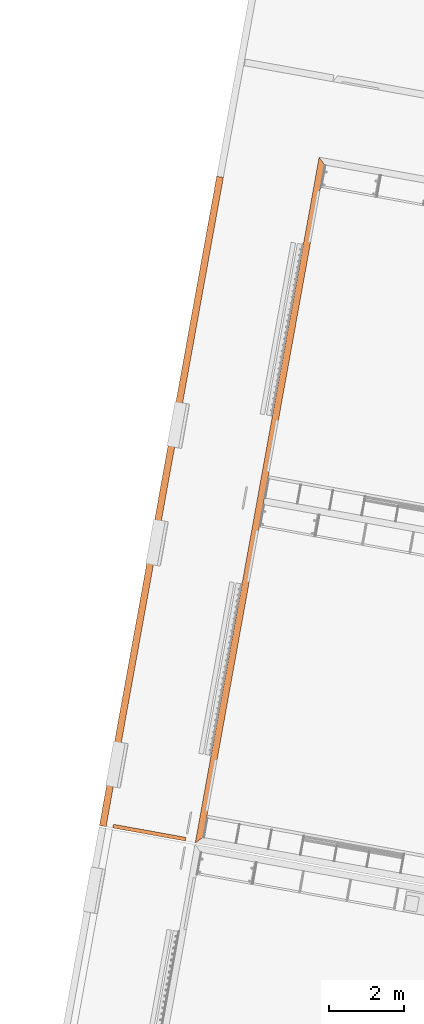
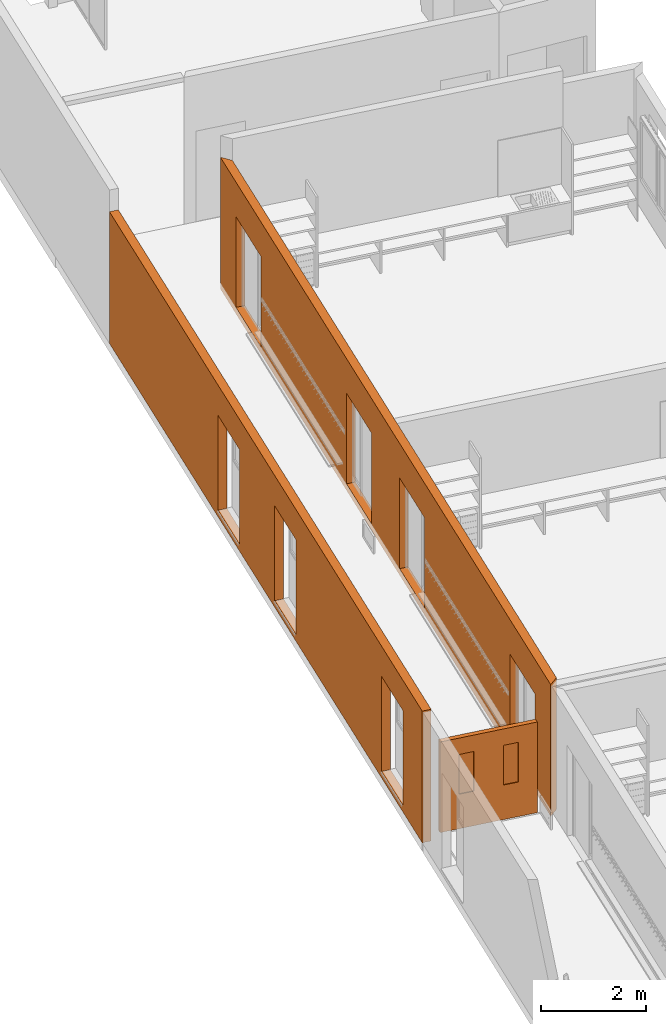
# One storey, part 44 of 52: 3 proxies.
"""IFC2X3 building model written with IfcOpenShell, lengths in metres."""

from ifc_helpers import new_model, entity, si_unit, converted_unit, derived_unit, money_unit, direction, frame, origin_with_axes, place, context, subcontext, project, spatial, polyline, outline, extrude, boolean, open_shell, faceted_brep, surface_model, material, type_object, element, save


model = new_model("IFC2X3")

# Units and contexts
model_context = context("Model", 3, precision=1e-05, world=origin_with_axes(), true_north=direction((0.0, 1.0)))
body_context = subcontext(model_context, "Body", "Model", "MODEL_VIEW")
ifc_project = project(units=[si_unit("LENGTHUNIT", "METRE"), si_unit("AREAUNIT", "SQUARE_METRE"), si_unit("VOLUMEUNIT", "CUBIC_METRE"), converted_unit("PLANEANGLEUNIT", "DEGREE", entity("IfcPlaneAngleMeasure", 0.0174532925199), si_unit("PLANEANGLEUNIT", "RADIAN"), dimensions=[0, 0, 0, 0, 0, 0, 0]), money_unit("CHF"), converted_unit("TIMEUNIT", "Year", entity("IfcTimeMeasure", 31556926.0), si_unit("TIMEUNIT", "SECOND"), dimensions=[0, 0, 1, 0, 0, 0, 0]), si_unit("MASSUNIT", "GRAM", prefix="KILO"), si_unit("THERMODYNAMICTEMPERATUREUNIT", "DEGREE_CELSIUS"), si_unit("LUMINOUSINTENSITYUNIT", "LUMEN"), si_unit("ENERGYUNIT", "JOULE", prefix="MEGA"), derived_unit("THERMALCONDUCTANCEUNIT", [(si_unit("POWERUNIT", "WATT"), 1), (si_unit("LENGTHUNIT", "METRE"), -1), (si_unit("THERMODYNAMICTEMPERATUREUNIT", "KELVIN"), -1)]), derived_unit("SPECIFICHEATCAPACITYUNIT", [(si_unit("ENERGYUNIT", "JOULE"), 1), (si_unit("MASSUNIT", "GRAM", prefix="KILO"), -1), (si_unit("THERMODYNAMICTEMPERATUREUNIT", "KELVIN"), -1)]), derived_unit("MASSDENSITYUNIT", [(si_unit("MASSUNIT", "GRAM", prefix="KILO"), 1), (si_unit("VOLUMEUNIT", "CUBIC_METRE"), -1)])], contexts=[model_context])

# Site, building, storey
site_placement = place(None, frame((0.0, 0.0, 0.0), z_axis=(0.0, 0.0, 1.0), x_axis=(-0.177771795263, -0.984071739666, 0.0)))
site = spatial("IfcSite", under=ifc_project, at=site_placement, Name="Site", CompositionType="ELEMENT")
building_placement = place(site_placement, origin_with_axes())
building = spatial("IfcBuilding", under=site, at=building_placement, Name="Bâtiment", CompositionType="ELEMENT")
storey_placement = place(building_placement, frame((0.0, 0.0, 3.2), z_axis=(0.0, 0.0, 1.0), x_axis=(1.0, 0.0, 0.0)))
storey = spatial("IfcBuildingStorey", under=building, at=storey_placement, Name="R+1", CompositionType="ELEMENT", Elevation=3.2)

# Proxies
ifc_material_1 = material(Name="_BA banché RAL9007")
building_element_proxy_type_1 = type_object("IfcBuildingElementProxyType", Name="_BA banché RAL9007 180", PredefinedType="NOTDEFINED")
proxy_1_placement = place(storey_placement, frame((128.464841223, -156.627151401, -0.15), z_axis=(0.0, 0.0, 1.0), x_axis=(-1.0, 0.0, 0.0)))
element("IfcBuildingElementProxy", 1, at=proxy_1_placement, inside=storey, type_object=building_element_proxy_type_1, material=ifc_material_1, Name="M refend", context=body_context, shape_type="CSG", body=[
    boolean("DIFFERENCE", boolean("DIFFERENCE", boolean("DIFFERENCE", boolean("DIFFERENCE", extrude(outline(polyline([(0.179999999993, -0.18), (18.36, -0.18), (18.54, 0.0), (0.0, 0.0), (0.179999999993, -0.18)])), origin_with_axes(), (0.0, 0.0, 1.0), 3.05), faceted_brep([(17.66, 0.0, 0.15), (16.26, 0.0, 0.15), (16.26, 0.0, 2.25), (17.66, 0.0, 2.25), (17.66, -0.18, 0.15), (16.26, -0.18, 0.15), (16.26, -0.18, 2.25), (17.66, -0.18, 2.25)], [[[0, 1, 2, 3]], [[4, 5, 1, 0]], [[5, 6, 2, 1]], [[6, 7, 3, 2]], [[7, 4, 0, 3]], [[4, 7, 6, 5]]])), faceted_brep([(11.46, 0.0, 0.15), (10.06, 0.0, 0.15), (10.06, 0.0, 2.25), (11.46, 0.0, 2.25), (11.46, -0.18, 0.15), (10.06, -0.18, 0.15), (10.06, -0.18, 2.25), (11.46, -0.18, 2.25)], [[[0, 1, 2, 3]], [[4, 5, 1, 0]], [[5, 6, 2, 1]], [[6, 7, 3, 2]], [[7, 4, 0, 3]], [[4, 7, 6, 5]]])), faceted_brep([(8.48, 0.0, 0.15), (7.08, 0.0, 0.15), (7.08, 0.0, 2.25), (8.48, 0.0, 2.25), (8.48, -0.18, 0.15), (7.08, -0.18, 0.15), (7.08, -0.18, 2.25), (8.48, -0.18, 2.25)], [[[0, 1, 2, 3]], [[4, 5, 1, 0]], [[5, 6, 2, 1]], [[6, 7, 3, 2]], [[7, 4, 0, 3]], [[4, 7, 6, 5]]])), faceted_brep([(2.28, 0.0, 0.15), (0.880000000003, 0.0, 0.15), (0.880000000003, 0.0, 2.25), (2.28, 0.0, 2.25), (2.28, -0.18, 0.15), (0.880000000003, -0.18, 0.15), (0.880000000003, -0.18, 2.25), (2.28, -0.18, 2.25)], [[[0, 1, 2, 3]], [[4, 5, 1, 0]], [[5, 6, 2, 1]], [[6, 7, 3, 2]], [[7, 4, 0, 3]], [[4, 7, 6, 5]]])),
])
building_element_proxy_type_2 = type_object("IfcBuildingElementProxyType", Name="_M ext 18 +18 360", PredefinedType="NOTDEFINED")
proxy_2_placement = place(storey_placement, frame((128.464841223, -159.217107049, -0.15), z_axis=(0.0, 0.0, 1.0), x_axis=(-1.0, 0.0, 0.0)))
element("IfcBuildingElementProxy", 2, at=proxy_2_placement, inside=storey, type_object=building_element_proxy_type_2, material=ifc_material_1, Name="M ext-Ouest", context=body_context, shape_type="CSG", body=[
    boolean("DIFFERENCE", boolean("DIFFERENCE", boolean("DIFFERENCE", extrude(outline(polyline([(0.0, -0.18), (17.5538129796, -0.18), (17.5538129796, 0.0), (0.0, 0.0), (0.0, -0.18)])), origin_with_axes(), (0.0, 0.0, 1.0), 3.05), faceted_brep([(11.46, 0.0, 0.151), (10.26, 0.0, 0.151), (10.26, 0.0, 2.35), (11.46, 0.0, 2.35), (11.46, -0.18, 0.151), (10.26, -0.18, 0.151), (10.26, -0.18, 2.35), (11.46, -0.18, 2.35)], [[[0, 1, 2, 3]], [[4, 5, 1, 0]], [[5, 6, 2, 1]], [[6, 7, 3, 2]], [[7, 4, 0, 3]], [[4, 7, 6, 5]]])), faceted_brep([(8.28, 0.0, 0.151), (7.08, 0.0, 0.151), (7.08, 0.0, 2.35), (8.28, 0.0, 2.35), (8.28, -0.18, 0.151), (7.08, -0.18, 0.151), (7.08, -0.18, 2.35), (8.28, -0.18, 2.35)], [[[0, 1, 2, 3]], [[4, 5, 1, 0]], [[5, 6, 2, 1]], [[6, 7, 3, 2]], [[7, 4, 0, 3]], [[4, 7, 6, 5]]])), faceted_brep([(2.28000000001, 0.0, 0.151), (1.08000000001, 0.0, 0.151), (1.08000000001, 0.0, 2.35), (2.28000000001, 0.0, 2.35), (2.28000000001, -0.18, 0.151), (1.08000000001, -0.18, 0.151), (1.08000000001, -0.18, 2.35), (2.28000000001, -0.18, 2.35)], [[[0, 1, 2, 3]], [[4, 5, 1, 0]], [[5, 6, 2, 1]], [[6, 7, 3, 2]], [[7, 4, 0, 3]], [[4, 7, 6, 5]]])),
])
ifc_material_2 = material(Name="Matériau de construction IFC")
building_element_proxy_type_3 = type_object("IfcBuildingElementProxyType", Name="Porte double 21", PredefinedType="NOTDEFINED")
proxy_3_placement = place(storey_placement, frame((128.464841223, -156.897107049, 0.0), z_axis=(0.0, 0.0, 1.0), x_axis=(0.0, -1.0, 0.0)))
element("IfcBuildingElementProxy", 3, at=proxy_3_placement, inside=storey, type_object=building_element_proxy_type_3, material=ifc_material_2, Name="35 (DAS)", context=body_context, shape_type="SurfaceModel", body=[
    faceted_brep([(0.1, -0.04, 0.0), (0.1, -0.04, 2.0), (0.1, -0.1, 2.0), (0.1, -0.1, 0.0), (0.08, -0.04, 2.0), (0.08, -0.04, 0.0), (0.08, 0.0, 2.0), (0.0, 0.0, 2.0), (0.0, -0.1, 2.0), (0.0, -0.1, 0.0), (0.0, 0.0, 0.0), (0.08, 0.0, 0.0)], [[[0, 1, 2, 3]], [[4, 1, 0, 5]], [[4, 6, 7, 8, 2, 1]], [[3, 2, 8, 9]], [[5, 0, 3, 9, 10, 11]], [[6, 4, 5, 11]], [[6, 11, 10, 7]], [[10, 9, 8, 7]]]),
    faceted_brep([(1.88, -0.04, 2.0), (1.86, -0.04, 2.0), (1.86, -0.1, 2.0), (1.96, -0.1, 2.0), (1.96, 0.0, 2.0), (1.88, 0.0, 2.0), (1.88, -0.04, 0.0), (1.86, -0.04, 0.0), (1.86, -0.1, 0.0), (1.96, -0.1, 0.0), (1.96, 0.0, 0.0), (1.88, 0.0, 0.0)], [[[0, 1, 2, 3, 4, 5]], [[1, 0, 6, 7]], [[1, 7, 8, 2]], [[3, 2, 8, 9]], [[4, 3, 9, 10]], [[11, 5, 4, 10]], [[0, 5, 11, 6]], [[6, 11, 10, 9, 8, 7]]]),
    faceted_brep([(0.08, 0.0, 2.02), (0.08, 0.0, 2.0), (0.0, 0.0, 2.0), (0.0, 0.0, 2.1), (1.96, 0.0, 2.1), (1.96, 0.0, 2.0), (1.88, 0.0, 2.0), (1.88, 0.0, 2.02), (0.08, -0.04, 2.02), (0.08, -0.04, 2.0), (0.1, -0.04, 2.0), (0.1, -0.1, 2.0), (0.0, -0.1, 2.0), (0.0, -0.1, 2.1), (1.96, -0.1, 2.1), (1.96, -0.1, 2.0), (1.88, -0.04, 2.0), (1.86, -0.1, 2.0), (1.86, -0.04, 2.0), (1.88, -0.04, 2.02)], [[[0, 1, 2, 3, 4, 5, 6, 7]], [[1, 0, 8, 9]], [[9, 10, 11, 12, 2, 1]], [[2, 12, 13, 3]], [[3, 13, 14, 4]], [[4, 14, 15, 5]], [[16, 6, 5, 15, 17, 18]], [[7, 6, 16, 19]], [[0, 7, 19, 8]], [[16, 18, 10, 9, 8, 19]], [[10, 18, 17, 11]], [[17, 15, 14, 13, 12, 11]]]),
    faceted_brep([(1.88, 0.0, 0.8), (1.88, -0.04, 0.8), (1.58, -0.04, 0.8), (1.58, 0.0, 0.8), (1.88, 0.0, 1.72), (1.88, -0.04, 1.72), (1.58, -0.04, 1.72), (1.58, 0.0, 1.72)], [[[0, 1, 2, 3]], [[4, 5, 1, 0]], [[1, 5, 6, 2]], [[3, 2, 6, 7]], [[0, 3, 7, 4]], [[7, 6, 5, 4]]]),
    faceted_brep([(0.98, 0.0, 0.8), (0.98, -0.04, 0.8), (0.98, -0.04, 1.72), (0.98, 0.0, 1.72), (1.28, 0.0, 0.8), (1.28, -0.04, 0.8), (1.28, -0.04, 1.72), (1.28, 0.0, 1.72)], [[[0, 1, 2, 3]], [[4, 5, 1, 0]], [[1, 5, 6, 2]], [[3, 2, 6, 7]], [[0, 3, 7, 4]], [[7, 6, 5, 4]]]),
    faceted_brep([(1.88, 0.0, 0.0), (1.88, -0.04, 0.0), (0.98, -0.04, 0.0), (0.98, 0.0, 0.0), (1.88, 0.0, 0.8), (1.88, -0.04, 0.8), (1.58, -0.04, 0.8), (1.28, -0.04, 0.8), (0.98, -0.04, 0.8), (0.98, 0.0, 0.8), (1.28, 0.0, 0.8), (1.58, 0.0, 0.8)], [[[0, 1, 2, 3]], [[4, 5, 1, 0]], [[1, 5, 6, 7, 8, 2]], [[3, 2, 8, 9]], [[0, 3, 9, 10, 11, 4]], [[11, 6, 5, 4]], [[10, 7, 6, 11]], [[9, 8, 7, 10]]]),
    faceted_brep([(1.88, 0.0, 2.02), (1.88, -0.04, 2.02), (1.88, -0.04, 1.72), (1.88, 0.0, 1.72), (0.98, 0.0, 2.02), (0.98, -0.04, 2.02), (0.98, -0.04, 1.72), (1.28, -0.04, 1.72), (1.58, -0.04, 1.72), (1.58, 0.0, 1.72), (1.28, 0.0, 1.72), (0.98, 0.0, 1.72)], [[[0, 1, 2, 3]], [[4, 5, 1, 0]], [[1, 5, 6, 7, 8, 2]], [[3, 2, 8, 9]], [[0, 3, 9, 10, 11, 4]], [[11, 6, 5, 4]], [[10, 7, 6, 11]], [[9, 8, 7, 10]]]),
    surface_model("IfcShellBasedSurfaceModel", [(1.58, -0.015, 0.8), (1.28, -0.015, 0.8), (1.28, -0.015, 1.72), (1.58, -0.015, 1.72)], [open_shell([[[0, 1, 2, 3]]])]),
    surface_model("IfcShellBasedSurfaceModel", [(1.58, -0.025, 0.8), (1.58, -0.025, 1.72), (1.28, -0.025, 1.72), (1.28, -0.025, 0.8)], [open_shell([[[0, 1, 2, 3]]])]),
    faceted_brep([(0.08, 0.0, 0.8), (0.38, 0.0, 0.8), (0.38, -0.04, 0.8), (0.08, -0.04, 0.8), (0.08, 0.0, 1.72), (0.38, 0.0, 1.72), (0.38, -0.04, 1.72), (0.08, -0.04, 1.72)], [[[0, 1, 2, 3]], [[0, 4, 5, 1]], [[1, 5, 6, 2]], [[3, 2, 6, 7]], [[4, 0, 3, 7]], [[5, 4, 7, 6]]]),
    faceted_brep([(0.98, 0.0, 0.8), (0.98, 0.0, 1.72), (0.98, -0.04, 1.72), (0.98, -0.04, 0.8), (0.68, 0.0, 0.8), (0.68, 0.0, 1.72), (0.68, -0.04, 1.72), (0.68, -0.04, 0.8)], [[[0, 1, 2, 3]], [[0, 4, 5, 1]], [[1, 5, 6, 2]], [[3, 2, 6, 7]], [[4, 0, 3, 7]], [[5, 4, 7, 6]]]),
    faceted_brep([(0.08, 0.0, 0.0), (0.98, 0.0, 0.0), (0.98, -0.04, 0.0), (0.08, -0.04, 0.0), (0.08, 0.0, 0.8), (0.38, 0.0, 0.8), (0.68, 0.0, 0.8), (0.98, 0.0, 0.8), (0.98, -0.04, 0.8), (0.68, -0.04, 0.8), (0.38, -0.04, 0.8), (0.08, -0.04, 0.8)], [[[0, 1, 2, 3]], [[0, 4, 5, 6, 7, 1]], [[1, 7, 8, 2]], [[3, 2, 8, 9, 10, 11]], [[4, 0, 3, 11]], [[5, 4, 11, 10]], [[6, 5, 10, 9]], [[7, 6, 9, 8]]]),
    faceted_brep([(0.08, 0.0, 2.02), (0.08, 0.0, 1.72), (0.08, -0.04, 1.72), (0.08, -0.04, 2.02), (0.98, 0.0, 2.02), (0.98, 0.0, 1.72), (0.68, 0.0, 1.72), (0.38, 0.0, 1.72), (0.38, -0.04, 1.72), (0.68, -0.04, 1.72), (0.98, -0.04, 1.72), (0.98, -0.04, 2.02)], [[[0, 1, 2, 3]], [[0, 4, 5, 6, 7, 1]], [[1, 7, 8, 2]], [[3, 2, 8, 9, 10, 11]], [[4, 0, 3, 11]], [[5, 4, 11, 10]], [[6, 5, 10, 9]], [[7, 6, 9, 8]]]),
    surface_model("IfcShellBasedSurfaceModel", [(0.38, -0.015, 0.8), (0.38, -0.015, 1.72), (0.68, -0.015, 1.72), (0.68, -0.015, 0.8)], [open_shell([[[0, 1, 2, 3]]])]),
    surface_model("IfcShellBasedSurfaceModel", [(0.38, -0.025, 0.8), (0.68, -0.025, 0.8), (0.68, -0.025, 1.72), (0.38, -0.025, 1.72)], [open_shell([[[0, 1, 2, 3]]])]),
])

save(model, "model.ifc")
